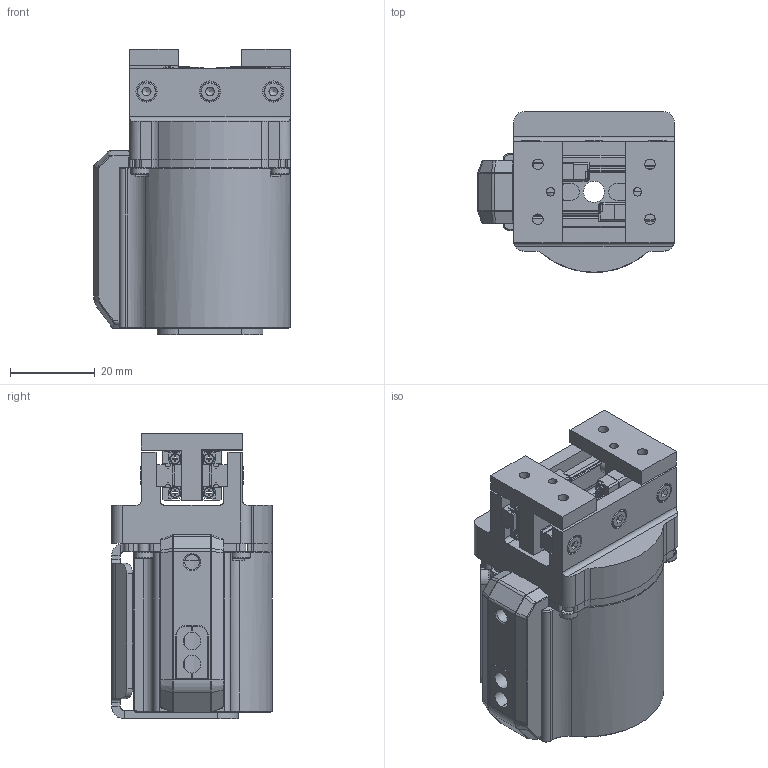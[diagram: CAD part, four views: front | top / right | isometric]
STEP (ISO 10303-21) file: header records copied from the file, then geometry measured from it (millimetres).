
FILE_DESCRIPTION (( 'STEP AP203' ), '1' );
FILE_NAME ('CHB6-S14.STEP', '2020-09-25T01:59:51', ( '' ), ( '' ), 'SwSTEP 2.0', 'SolidWorks 2019', '' );
FILE_SCHEMA (( 'CONFIG_CONTROL_DESIGN' ));
Length unit declared in the file: millimetre
Products named in the file (2): CHB6-S14
Bounding box: 46.5 x 38 x 67.5 mm (x, y, z)
Surface area: 25610.6 mm2 (no closed solid volume)
Topology: 0 solids, 56 shells, 706 faces, 2803 edges, 2110 vertices
Faces by surface type: plane 445, cylinder 189, cone 47, bspline 16, torus 9
Full cylindrical faces by diameter (mm): 2 x2, 2.46 x6, 2.5 x16, 3.5 x1, 3.8 x2, 4.5 x11, 5 x6, 6 x2
Entity records: 29431 total; most frequent: CARTESIAN_POINT 6615, DIRECTION 4580, ORIENTED_EDGE 4067, EDGE_CURVE 2712, VERTEX_POINT 2095, LINE 2020, VECTOR 2020, AXIS2_PLACEMENT_3D 1280
